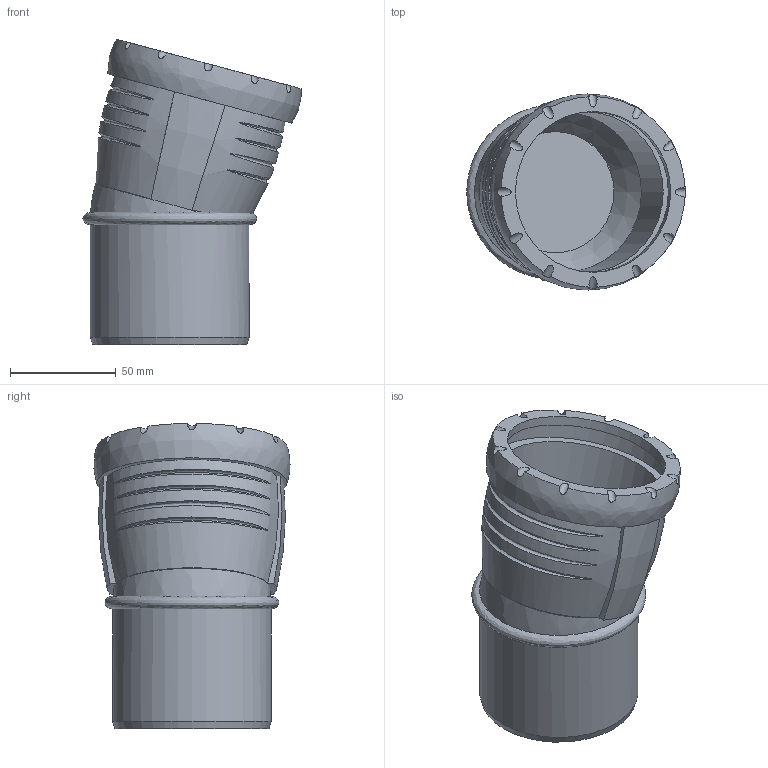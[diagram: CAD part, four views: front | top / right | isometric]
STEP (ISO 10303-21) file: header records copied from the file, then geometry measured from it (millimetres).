
FILE_DESCRIPTION(/* description */ (''),/* implementation_level */ '2;1');
FILE_NAME(/* name */ 'H:\Geberit-Teile\Export\Bogen_TEST\stp\393320.stp',/* time_stamp */ '2017-02-14T10:06:08+01:00',/* author */ ('seihe2'),/* organization */ (''),/* preprocessor_version */ 'ST-DEVELOPER v15.2',/* originating_system */ 'Autodesk Inventor 2014',/* authorisation */ '');
FILE_SCHEMA (('AUTOMOTIVE_DESIGN { 1 0 10303 214 3 1 1 }'));
Length unit declared in the file: millimetre
Products named in the file (1): 393320
Bounding box: 103.45 x 92.94 x 144.63 mm (x, y, z)
Volume: 185104 mm3; surface area: 83182.7 mm2
Topology: 2 solids, 2 shells, 53 faces, 128 edges, 90 vertices
Faces by surface type: bspline 25, cylinder 18, plane 8, cone 2
Full cylindrical faces by diameter (mm): 67.6 x1, 75.2 x2, 75.9 x1, 76.2 x1, 85 x1
Entity records: 4067 total; most frequent: CARTESIAN_POINT 2925, ORIENTED_EDGE 242, DIRECTION 168, EDGE_CURVE 119, VERTEX_POINT 89, AXIS2_PLACEMENT_3D 84, EDGE_LOOP 75, B_SPLINE_CURVE_WITH_KNOTS 63
